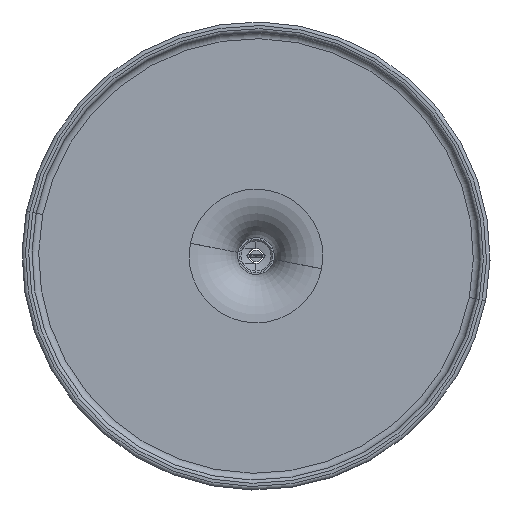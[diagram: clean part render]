
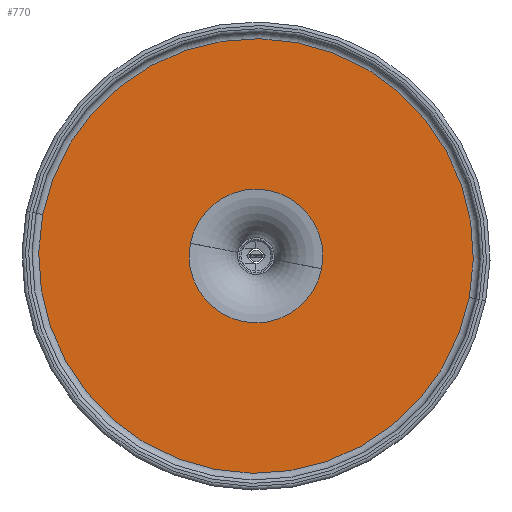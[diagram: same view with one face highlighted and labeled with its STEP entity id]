
A CAD part, front view. The second image highlights one B-rep face of the part: STEP entity #770.
In plain terms, the highlighted planar face has unit normal (0, -1, 0).
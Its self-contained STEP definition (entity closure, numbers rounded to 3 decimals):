
#190 = CARTESIAN_POINT ( 'NONE',  ( 20., 62.762, 0. ) ) ;
#313 = DIRECTION ( 'NONE',  ( 1., 0., 0. ) ) ;
#341 = VERTEX_POINT ( 'NONE', #190 ) ;
#366 = CARTESIAN_POINT ( 'NONE',  ( -65., 62.762, 0. ) ) ;
#391 = VERTEX_POINT ( 'NONE', #3836 ) ;
#426 = CIRCLE ( 'NONE', #3648, 65. ) ;
#722 = AXIS2_PLACEMENT_3D ( 'NONE', #3981, #3039, #2124 ) ;
#744 = DIRECTION ( 'NONE',  ( -1., 0., 0. ) ) ;
#770 = ADVANCED_FACE ( 'NONE', ( #2935, #2286 ), #1374, .F. ) ;
#933 = AXIS2_PLACEMENT_3D ( 'NONE', #1750, #1431, #2661 ) ;
#1059 = CARTESIAN_POINT ( 'NONE',  ( -65., 62.762, 0. ) ) ;
#1205 = EDGE_LOOP ( 'NONE', ( #1749, #1455 ) ) ;
#1374 = PLANE ( 'NONE',  #3347 ) ;
#1431 = DIRECTION ( 'NONE',  ( 0., -1., 0. ) ) ;
#1455 = ORIENTED_EDGE ( 'NONE', *, *, #1542, .T. ) ;
#1542 = EDGE_CURVE ( 'NONE', #2989, #2927, #2358, .T. ) ;
#1605 = EDGE_CURVE ( 'NONE', #341, #391, #3358, .T. ) ;
#1749 = ORIENTED_EDGE ( 'NONE', *, *, #3696, .T. ) ;
#1750 = CARTESIAN_POINT ( 'NONE',  ( 0., 62.762, 0. ) ) ;
#1921 = CARTESIAN_POINT ( 'NONE',  ( 65., 62.762, 0. ) ) ;
#2124 = DIRECTION ( 'NONE',  ( 1., 0., 0. ) ) ;
#2286 = FACE_OUTER_BOUND ( 'NONE', #1205, .T. ) ;
#2306 = DIRECTION ( 'NONE',  ( 0., 1., 0. ) ) ;
#2358 = CIRCLE ( 'NONE', #722, 65. ) ;
#2404 = EDGE_CURVE ( 'NONE', #391, #341, #2834, .T. ) ;
#2511 = CARTESIAN_POINT ( 'NONE',  ( 0., 62.762, 0. ) ) ;
#2661 = DIRECTION ( 'NONE',  ( 1., 0., 0. ) ) ;
#2834 = CIRCLE ( 'NONE', #3371, 20. ) ;
#2892 = ORIENTED_EDGE ( 'NONE', *, *, #1605, .F. ) ;
#2927 = VERTEX_POINT ( 'NONE', #1921 ) ;
#2935 = FACE_BOUND ( 'NONE', #3858, .T. ) ;
#2989 = VERTEX_POINT ( 'NONE', #366 ) ;
#3039 = DIRECTION ( 'NONE',  ( 0., -1., 0. ) ) ;
#3263 = DIRECTION ( 'NONE',  ( 1., 0., 0. ) ) ;
#3347 = AXIS2_PLACEMENT_3D ( 'NONE', #1059, #2306, #744 ) ;
#3358 = CIRCLE ( 'NONE', #933, 20. ) ;
#3371 = AXIS2_PLACEMENT_3D ( 'NONE', #2511, #3777, #313 ) ;
#3584 = DIRECTION ( 'NONE',  ( 0., -1., 0. ) ) ;
#3648 = AXIS2_PLACEMENT_3D ( 'NONE', #3885, #3584, #3263 ) ;
#3696 = EDGE_CURVE ( 'NONE', #2927, #2989, #426, .T. ) ;
#3777 = DIRECTION ( 'NONE',  ( 0., -1., 0. ) ) ;
#3836 = CARTESIAN_POINT ( 'NONE',  ( -20., 62.762, 0. ) ) ;
#3858 = EDGE_LOOP ( 'NONE', ( #2892, #4028 ) ) ;
#3885 = CARTESIAN_POINT ( 'NONE',  ( 0., 62.762, 0. ) ) ;
#3981 = CARTESIAN_POINT ( 'NONE',  ( 0., 62.762, 0. ) ) ;
#4028 = ORIENTED_EDGE ( 'NONE', *, *, #2404, .F. ) ;
